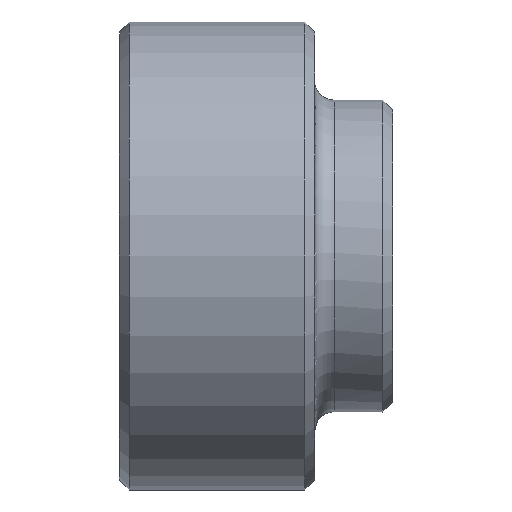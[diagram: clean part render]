
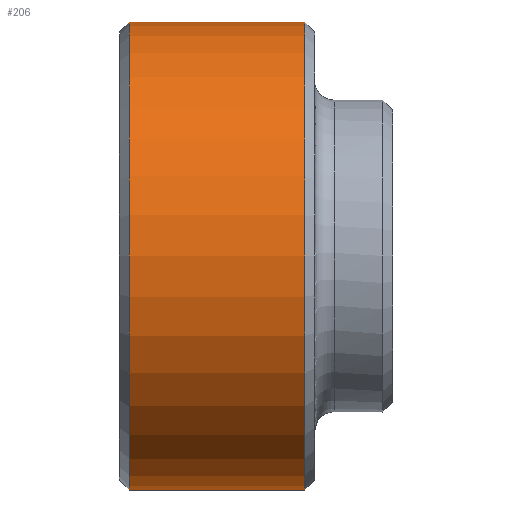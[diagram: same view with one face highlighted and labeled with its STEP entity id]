
A CAD part, front view. The second image highlights one B-rep face of the part: STEP entity #206.
In plain terms, the highlighted cylindrical face has radius 12 mm (diameter 24 mm), a full revolution.
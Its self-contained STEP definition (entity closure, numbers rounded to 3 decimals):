
#206=ADVANCED_FACE('',(#4567,#4569),#4571,.T.);
#4567=FACE_OUTER_BOUND('',#4568,.T.);
#4568=EDGE_LOOP('',(#5246));
#4569=FACE_OUTER_BOUND('',#4570,.T.);
#4570=EDGE_LOOP('',(#5247));
#4571=CYLINDRICAL_SURFACE('',#4572,12.);
#4572=AXIS2_PLACEMENT_3D('',#4573,#4574,#4575);
#4573=CARTESIAN_POINT('',(10.,0.,0.));
#4574=DIRECTION('',(-1.,0.,0.));
#4575=DIRECTION('',(0.,0.,-1.));
#5246=ORIENTED_EDGE('',*,*,#5331,.T.);
#5247=ORIENTED_EDGE('',*,*,#5333,.F.);
#5331=EDGE_CURVE('',#5432,#5432,#5433,.T.);
#5333=EDGE_CURVE('',#5436,#5436,#5437,.T.);
#5432=VERTEX_POINT('',#7563);
#5433=CIRCLE('',#7564,12.);
#5436=VERTEX_POINT('',#7573);
#5437=CIRCLE('',#7574,12.);
#7563=CARTESIAN_POINT('',(9.5,0.,-12.));
#7564=AXIS2_PLACEMENT_3D('',#7565,#7566,#7567);
#7565=CARTESIAN_POINT('',(9.5,0.,0.));
#7566=DIRECTION('',(-1.,0.,0.));
#7567=DIRECTION('',(0.,0.,-1.));
#7573=CARTESIAN_POINT('',(0.5,0.,-12.));
#7574=AXIS2_PLACEMENT_3D('',#7575,#7576,#7577);
#7575=CARTESIAN_POINT('',(0.5,0.,0.));
#7576=DIRECTION('',(-1.,0.,0.));
#7577=DIRECTION('',(0.,0.,-1.));
